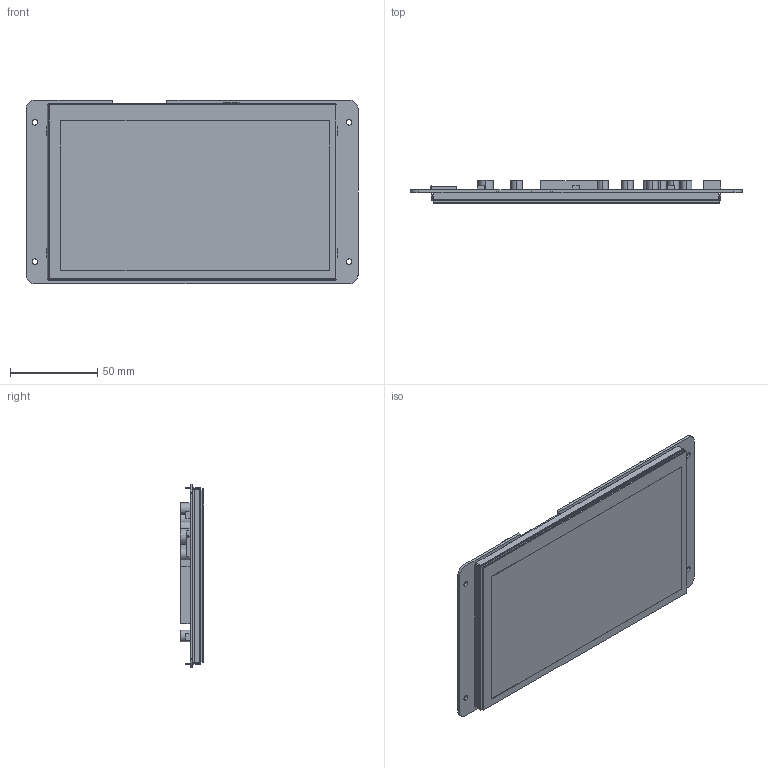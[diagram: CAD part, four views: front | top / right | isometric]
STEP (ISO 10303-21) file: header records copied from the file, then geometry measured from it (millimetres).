
FILE_DESCRIPTION (( 'STEP AP214' ), '1' );
FILE_NAME ('DMG10600T070-01WTC 3D.STEP', '2023-09-15T08:59:25', ( '' ), ( 'Microsoft' ), 'SwSTEP 2.0', 'SolidWorks 2017', '' );
FILE_SCHEMA (( 'AUTOMOTIVE_DESIGN' ));
Length unit declared in the file: millimetre
Products named in the file (5): TK070019; DMG10600T070-01W; DMG10600T070-01WTC  3D; TPC070T0084G01V1-馱最芞; LI10600T070HA3004-W(M02258)
Assembly tree (4 placements, depth 2):
  DMG10600T070-01WTC  3D
    DMG10600T070-01W
    TK070019
    LI10600T070HA3004-W(M02258)
    TPC070T0084G01V1-馱最芞
Bounding box: 190.5 x 13.47 x 105.41 mm (x, y, z)
Volume: 120809.5 mm3; surface area: 122975 mm2
Topology: 4 solids, 4 shells, 399 faces, 1087 edges, 714 vertices
Faces by surface type: plane 239, cylinder 152, bspline 8
Entity records: 16820 total; most frequent: CARTESIAN_POINT 2435, ORIENTED_EDGE 2174, DIRECTION 2151, EDGE_CURVE 1087, VECTOR 779, LINE 779, VERTEX_POINT 714, AXIS2_PLACEMENT_3D 686
